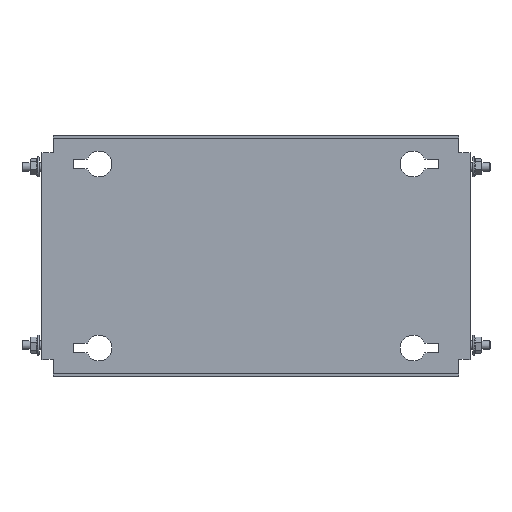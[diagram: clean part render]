
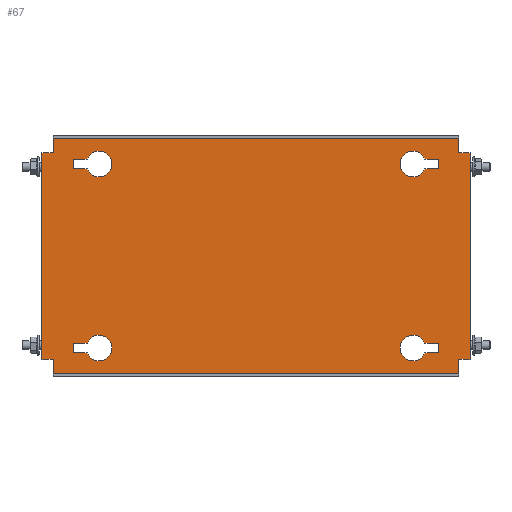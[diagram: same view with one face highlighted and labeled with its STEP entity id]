
A CAD part, top view. The second image highlights one B-rep face of the part: STEP entity #67.
In plain terms, the highlighted planar face has unit normal (0, 0, 1).
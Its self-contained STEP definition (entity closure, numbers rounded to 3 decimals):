
#67 = ADVANCED_FACE('',(#68,#103,#138,#300,#335),#370,.T.);
#68 = FACE_BOUND('',#69,.T.);
#69 = EDGE_LOOP('',(#70,#80,#88,#96));
#70 = ORIENTED_EDGE('',*,*,#71,.T.);
#71 = EDGE_CURVE('',#72,#74,#76,.T.);
#72 = VERTEX_POINT('',#73);
#73 = CARTESIAN_POINT('',(118.393,67.75,2.));
#74 = VERTEX_POINT('',#75);
#75 = CARTESIAN_POINT('',(128.,67.75,2.));
#76 = LINE('',#77,#78);
#77 = CARTESIAN_POINT('',(127.,67.75,2.));
#78 = VECTOR('',#79,1.);
#79 = DIRECTION('',(1.,0.,0.));
#80 = ORIENTED_EDGE('',*,*,#81,.T.);
#81 = EDGE_CURVE('',#74,#82,#84,.T.);
#82 = VERTEX_POINT('',#83);
#83 = CARTESIAN_POINT('',(128.,61.25,2.));
#84 = LINE('',#85,#86);
#85 = CARTESIAN_POINT('',(128.,67.75,2.));
#86 = VECTOR('',#87,1.);
#87 = DIRECTION('',(0.,-1.,0.));
#88 = ORIENTED_EDGE('',*,*,#89,.T.);
#89 = EDGE_CURVE('',#82,#90,#92,.T.);
#90 = VERTEX_POINT('',#91);
#91 = CARTESIAN_POINT('',(118.393,61.25,2.));
#92 = LINE('',#93,#94);
#93 = CARTESIAN_POINT('',(127.,61.25,2.));
#94 = VECTOR('',#95,1.);
#95 = DIRECTION('',(-1.,0.,0.));
#96 = ORIENTED_EDGE('',*,*,#97,.T.);
#97 = EDGE_CURVE('',#90,#72,#98,.T.);
#98 = CIRCLE('',#99,9.);
#99 = AXIS2_PLACEMENT_3D('',#100,#101,#102);
#100 = CARTESIAN_POINT('',(110.,64.5,2.));
#101 = DIRECTION('',(0.,0.,-1.));
#102 = DIRECTION('',(1.,0.,0.));
#103 = FACE_BOUND('',#104,.T.);
#104 = EDGE_LOOP('',(#105,#115,#123,#131));
#105 = ORIENTED_EDGE('',*,*,#106,.T.);
#106 = EDGE_CURVE('',#107,#109,#111,.T.);
#107 = VERTEX_POINT('',#108);
#108 = CARTESIAN_POINT('',(-118.393,-67.75,2.));
#109 = VERTEX_POINT('',#110);
#110 = CARTESIAN_POINT('',(-128.,-67.75,2.));
#111 = LINE('',#112,#113);
#112 = CARTESIAN_POINT('',(-127.,-67.75,2.));
#113 = VECTOR('',#114,1.);
#114 = DIRECTION('',(-1.,0.,0.));
#115 = ORIENTED_EDGE('',*,*,#116,.T.);
#116 = EDGE_CURVE('',#109,#117,#119,.T.);
#117 = VERTEX_POINT('',#118);
#118 = CARTESIAN_POINT('',(-128.,-61.25,2.));
#119 = LINE('',#120,#121);
#120 = CARTESIAN_POINT('',(-128.,-67.75,2.));
#121 = VECTOR('',#122,1.);
#122 = DIRECTION('',(0.,1.,0.));
#123 = ORIENTED_EDGE('',*,*,#124,.T.);
#124 = EDGE_CURVE('',#117,#125,#127,.T.);
#125 = VERTEX_POINT('',#126);
#126 = CARTESIAN_POINT('',(-118.393,-61.25,2.));
#127 = LINE('',#128,#129);
#128 = CARTESIAN_POINT('',(-127.,-61.25,2.));
#129 = VECTOR('',#130,1.);
#130 = DIRECTION('',(1.,0.,-0.));
#131 = ORIENTED_EDGE('',*,*,#132,.T.);
#132 = EDGE_CURVE('',#125,#107,#133,.T.);
#133 = CIRCLE('',#134,9.);
#134 = AXIS2_PLACEMENT_3D('',#135,#136,#137);
#135 = CARTESIAN_POINT('',(-110.,-64.5,2.));
#136 = DIRECTION('',(0.,0.,-1.));
#137 = DIRECTION('',(-1.,0.,0.));
#138 = FACE_BOUND('',#139,.T.);
#139 = EDGE_LOOP('',(#140,#150,#158,#166,#174,#182,#190,#198,#206,#214,
    #222,#230,#238,#246,#254,#262,#270,#278,#286,#294));
#140 = ORIENTED_EDGE('',*,*,#141,.F.);
#141 = EDGE_CURVE('',#142,#144,#146,.T.);
#142 = VERTEX_POINT('',#143);
#143 = CARTESIAN_POINT('',(-147.4,72.5,2.));
#144 = VERTEX_POINT('',#145);
#145 = CARTESIAN_POINT('',(-142.,72.5,2.));
#146 = LINE('',#147,#148);
#147 = CARTESIAN_POINT('',(-148.,72.5,2.));
#148 = VECTOR('',#149,1.);
#149 = DIRECTION('',(1.,0.,-0.));
#150 = ORIENTED_EDGE('',*,*,#151,.T.);
#151 = EDGE_CURVE('',#142,#152,#154,.T.);
#152 = VERTEX_POINT('',#153);
#153 = CARTESIAN_POINT('',(-150.,72.5,2.));
#154 = LINE('',#155,#156);
#155 = CARTESIAN_POINT('',(-147.4,72.5,2.));
#156 = VECTOR('',#157,1.);
#157 = DIRECTION('',(-1.,0.,0.));
#158 = ORIENTED_EDGE('',*,*,#159,.F.);
#159 = EDGE_CURVE('',#160,#152,#162,.T.);
#160 = VERTEX_POINT('',#161);
#161 = CARTESIAN_POINT('',(-150.,-72.5,2.));
#162 = LINE('',#163,#164);
#163 = CARTESIAN_POINT('',(-150.,-82.5,2.));
#164 = VECTOR('',#165,1.);
#165 = DIRECTION('',(-0.,1.,-0.));
#166 = ORIENTED_EDGE('',*,*,#167,.F.);
#167 = EDGE_CURVE('',#168,#160,#170,.T.);
#168 = VERTEX_POINT('',#169);
#169 = CARTESIAN_POINT('',(-147.4,-72.5,2.));
#170 = LINE('',#171,#172);
#171 = CARTESIAN_POINT('',(-142.,-72.5,2.));
#172 = VECTOR('',#173,1.);
#173 = DIRECTION('',(-1.,-0.,-0.));
#174 = ORIENTED_EDGE('',*,*,#175,.T.);
#175 = EDGE_CURVE('',#168,#176,#178,.T.);
#176 = VERTEX_POINT('',#177);
#177 = CARTESIAN_POINT('',(-142.,-72.5,2.));
#178 = LINE('',#179,#180);
#179 = CARTESIAN_POINT('',(-148.,-72.5,2.));
#180 = VECTOR('',#181,1.);
#181 = DIRECTION('',(1.,0.,-0.));
#182 = ORIENTED_EDGE('',*,*,#183,.T.);
#183 = EDGE_CURVE('',#176,#184,#186,.T.);
#184 = VERTEX_POINT('',#185);
#185 = CARTESIAN_POINT('',(-142.,-81.9,2.));
#186 = LINE('',#187,#188);
#187 = CARTESIAN_POINT('',(-142.,82.5,2.));
#188 = VECTOR('',#189,1.);
#189 = DIRECTION('',(0.,-1.,0.));
#190 = ORIENTED_EDGE('',*,*,#191,.T.);
#191 = EDGE_CURVE('',#184,#192,#194,.T.);
#192 = VERTEX_POINT('',#193);
#193 = CARTESIAN_POINT('',(-142.,-82.5,2.));
#194 = LINE('',#195,#196);
#195 = CARTESIAN_POINT('',(-142.,-81.9,2.));
#196 = VECTOR('',#197,1.);
#197 = DIRECTION('',(-0.,-1.,-0.));
#198 = ORIENTED_EDGE('',*,*,#199,.T.);
#199 = EDGE_CURVE('',#192,#200,#202,.T.);
#200 = VERTEX_POINT('',#201);
#201 = CARTESIAN_POINT('',(142.,-82.5,2.));
#202 = LINE('',#203,#204);
#203 = CARTESIAN_POINT('',(142.,-82.5,2.));
#204 = VECTOR('',#205,1.);
#205 = DIRECTION('',(1.,0.,0.));
#206 = ORIENTED_EDGE('',*,*,#207,.F.);
#207 = EDGE_CURVE('',#208,#200,#210,.T.);
#208 = VERTEX_POINT('',#209);
#209 = CARTESIAN_POINT('',(142.,-81.9,2.));
#210 = LINE('',#211,#212);
#211 = CARTESIAN_POINT('',(142.,-82.5,2.));
#212 = VECTOR('',#213,1.);
#213 = DIRECTION('',(0.,-1.,0.));
#214 = ORIENTED_EDGE('',*,*,#215,.T.);
#215 = EDGE_CURVE('',#208,#216,#218,.T.);
#216 = VERTEX_POINT('',#217);
#217 = CARTESIAN_POINT('',(142.,-72.5,2.));
#218 = LINE('',#219,#220);
#219 = CARTESIAN_POINT('',(142.,82.5,2.));
#220 = VECTOR('',#221,1.);
#221 = DIRECTION('',(-0.,1.,-0.));
#222 = ORIENTED_EDGE('',*,*,#223,.F.);
#223 = EDGE_CURVE('',#224,#216,#226,.T.);
#224 = VERTEX_POINT('',#225);
#225 = CARTESIAN_POINT('',(147.4,-72.5,2.));
#226 = LINE('',#227,#228);
#227 = CARTESIAN_POINT('',(148.,-72.5,2.));
#228 = VECTOR('',#229,1.);
#229 = DIRECTION('',(-1.,0.,-0.));
#230 = ORIENTED_EDGE('',*,*,#231,.T.);
#231 = EDGE_CURVE('',#224,#232,#234,.T.);
#232 = VERTEX_POINT('',#233);
#233 = CARTESIAN_POINT('',(150.,-72.5,2.));
#234 = LINE('',#235,#236);
#235 = CARTESIAN_POINT('',(147.4,-72.5,2.));
#236 = VECTOR('',#237,1.);
#237 = DIRECTION('',(1.,-0.,0.));
#238 = ORIENTED_EDGE('',*,*,#239,.F.);
#239 = EDGE_CURVE('',#240,#232,#242,.T.);
#240 = VERTEX_POINT('',#241);
#241 = CARTESIAN_POINT('',(150.,72.5,2.));
#242 = LINE('',#243,#244);
#243 = CARTESIAN_POINT('',(150.,-82.5,2.));
#244 = VECTOR('',#245,1.);
#245 = DIRECTION('',(-0.,-1.,0.));
#246 = ORIENTED_EDGE('',*,*,#247,.F.);
#247 = EDGE_CURVE('',#248,#240,#250,.T.);
#248 = VERTEX_POINT('',#249);
#249 = CARTESIAN_POINT('',(147.4,72.5,2.));
#250 = LINE('',#251,#252);
#251 = CARTESIAN_POINT('',(-142.,72.5,2.));
#252 = VECTOR('',#253,1.);
#253 = DIRECTION('',(1.,-0.,0.));
#254 = ORIENTED_EDGE('',*,*,#255,.T.);
#255 = EDGE_CURVE('',#248,#256,#258,.T.);
#256 = VERTEX_POINT('',#257);
#257 = CARTESIAN_POINT('',(142.,72.5,2.));
#258 = LINE('',#259,#260);
#259 = CARTESIAN_POINT('',(148.,72.5,2.));
#260 = VECTOR('',#261,1.);
#261 = DIRECTION('',(-1.,0.,-0.));
#262 = ORIENTED_EDGE('',*,*,#263,.T.);
#263 = EDGE_CURVE('',#256,#264,#266,.T.);
#264 = VERTEX_POINT('',#265);
#265 = CARTESIAN_POINT('',(142.,81.9,2.));
#266 = LINE('',#267,#268);
#267 = CARTESIAN_POINT('',(142.,82.5,2.));
#268 = VECTOR('',#269,1.);
#269 = DIRECTION('',(-0.,1.,-0.));
#270 = ORIENTED_EDGE('',*,*,#271,.T.);
#271 = EDGE_CURVE('',#264,#272,#274,.T.);
#272 = VERTEX_POINT('',#273);
#273 = CARTESIAN_POINT('',(142.,82.5,2.));
#274 = LINE('',#275,#276);
#275 = CARTESIAN_POINT('',(142.,81.9,2.));
#276 = VECTOR('',#277,1.);
#277 = DIRECTION('',(-0.,1.,-0.));
#278 = ORIENTED_EDGE('',*,*,#279,.T.);
#279 = EDGE_CURVE('',#272,#280,#282,.T.);
#280 = VERTEX_POINT('',#281);
#281 = CARTESIAN_POINT('',(-142.,82.5,2.));
#282 = LINE('',#283,#284);
#283 = CARTESIAN_POINT('',(-142.,82.5,2.));
#284 = VECTOR('',#285,1.);
#285 = DIRECTION('',(-1.,0.,0.));
#286 = ORIENTED_EDGE('',*,*,#287,.F.);
#287 = EDGE_CURVE('',#288,#280,#290,.T.);
#288 = VERTEX_POINT('',#289);
#289 = CARTESIAN_POINT('',(-142.,81.9,2.));
#290 = LINE('',#291,#292);
#291 = CARTESIAN_POINT('',(-142.,-82.5,2.));
#292 = VECTOR('',#293,1.);
#293 = DIRECTION('',(0.,1.,-0.));
#294 = ORIENTED_EDGE('',*,*,#295,.T.);
#295 = EDGE_CURVE('',#288,#144,#296,.T.);
#296 = LINE('',#297,#298);
#297 = CARTESIAN_POINT('',(-142.,82.5,2.));
#298 = VECTOR('',#299,1.);
#299 = DIRECTION('',(0.,-1.,0.));
#300 = FACE_BOUND('',#301,.T.);
#301 = EDGE_LOOP('',(#302,#312,#320,#328));
#302 = ORIENTED_EDGE('',*,*,#303,.F.);
#303 = EDGE_CURVE('',#304,#306,#308,.T.);
#304 = VERTEX_POINT('',#305);
#305 = CARTESIAN_POINT('',(128.,-61.25,2.));
#306 = VERTEX_POINT('',#307);
#307 = CARTESIAN_POINT('',(118.393,-61.25,2.));
#308 = LINE('',#309,#310);
#309 = CARTESIAN_POINT('',(118.393,-61.25,2.));
#310 = VECTOR('',#311,1.);
#311 = DIRECTION('',(-1.,0.,0.));
#312 = ORIENTED_EDGE('',*,*,#313,.F.);
#313 = EDGE_CURVE('',#314,#304,#316,.T.);
#314 = VERTEX_POINT('',#315);
#315 = CARTESIAN_POINT('',(128.,-67.75,2.));
#316 = LINE('',#317,#318);
#317 = CARTESIAN_POINT('',(128.,-61.25,2.));
#318 = VECTOR('',#319,1.);
#319 = DIRECTION('',(0.,1.,0.));
#320 = ORIENTED_EDGE('',*,*,#321,.F.);
#321 = EDGE_CURVE('',#322,#314,#324,.T.);
#322 = VERTEX_POINT('',#323);
#323 = CARTESIAN_POINT('',(118.393,-67.75,2.));
#324 = LINE('',#325,#326);
#325 = CARTESIAN_POINT('',(127.,-67.75,2.));
#326 = VECTOR('',#327,1.);
#327 = DIRECTION('',(1.,0.,0.));
#328 = ORIENTED_EDGE('',*,*,#329,.F.);
#329 = EDGE_CURVE('',#306,#322,#330,.T.);
#330 = CIRCLE('',#331,9.);
#331 = AXIS2_PLACEMENT_3D('',#332,#333,#334);
#332 = CARTESIAN_POINT('',(110.,-64.5,2.));
#333 = DIRECTION('',(0.,-0.,1.));
#334 = DIRECTION('',(1.,0.,0.));
#335 = FACE_BOUND('',#336,.T.);
#336 = EDGE_LOOP('',(#337,#347,#355,#363));
#337 = ORIENTED_EDGE('',*,*,#338,.F.);
#338 = EDGE_CURVE('',#339,#341,#343,.T.);
#339 = VERTEX_POINT('',#340);
#340 = CARTESIAN_POINT('',(-128.,61.25,2.));
#341 = VERTEX_POINT('',#342);
#342 = CARTESIAN_POINT('',(-118.393,61.25,2.));
#343 = LINE('',#344,#345);
#344 = CARTESIAN_POINT('',(-118.393,61.25,2.));
#345 = VECTOR('',#346,1.);
#346 = DIRECTION('',(1.,0.,0.));
#347 = ORIENTED_EDGE('',*,*,#348,.F.);
#348 = EDGE_CURVE('',#349,#339,#351,.T.);
#349 = VERTEX_POINT('',#350);
#350 = CARTESIAN_POINT('',(-128.,67.75,2.));
#351 = LINE('',#352,#353);
#352 = CARTESIAN_POINT('',(-128.,61.25,2.));
#353 = VECTOR('',#354,1.);
#354 = DIRECTION('',(0.,-1.,0.));
#355 = ORIENTED_EDGE('',*,*,#356,.F.);
#356 = EDGE_CURVE('',#357,#349,#359,.T.);
#357 = VERTEX_POINT('',#358);
#358 = CARTESIAN_POINT('',(-118.393,67.75,2.));
#359 = LINE('',#360,#361);
#360 = CARTESIAN_POINT('',(-127.,67.75,2.));
#361 = VECTOR('',#362,1.);
#362 = DIRECTION('',(-1.,0.,0.));
#363 = ORIENTED_EDGE('',*,*,#364,.F.);
#364 = EDGE_CURVE('',#341,#357,#365,.T.);
#365 = CIRCLE('',#366,9.);
#366 = AXIS2_PLACEMENT_3D('',#367,#368,#369);
#367 = CARTESIAN_POINT('',(-110.,64.5,2.));
#368 = DIRECTION('',(0.,-0.,1.));
#369 = DIRECTION('',(-1.,0.,0.));
#370 = PLANE('',#371);
#371 = AXIS2_PLACEMENT_3D('',#372,#373,#374);
#372 = CARTESIAN_POINT('',(-142.,-82.5,2.));
#373 = DIRECTION('',(-0.,0.,1.));
#374 = DIRECTION('',(1.,0.,0.));
